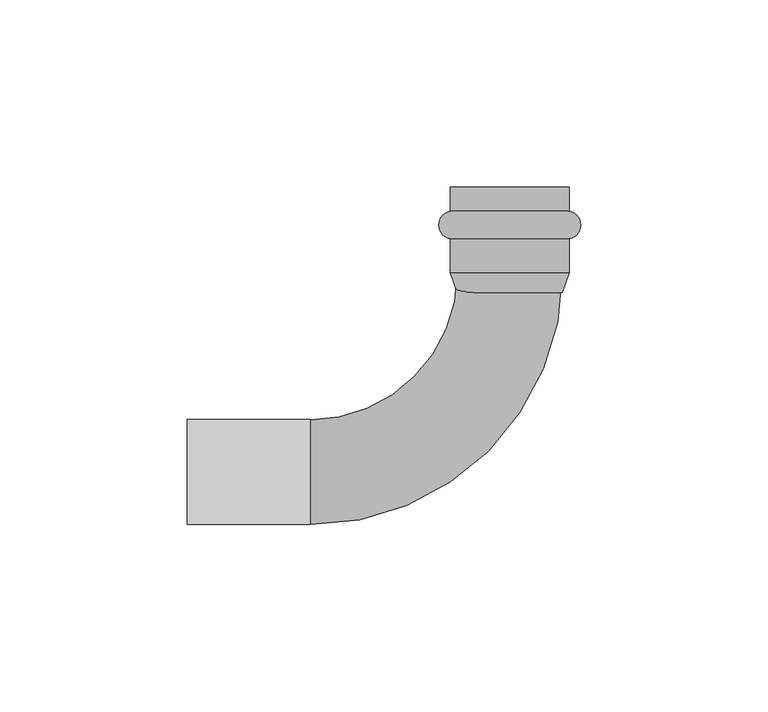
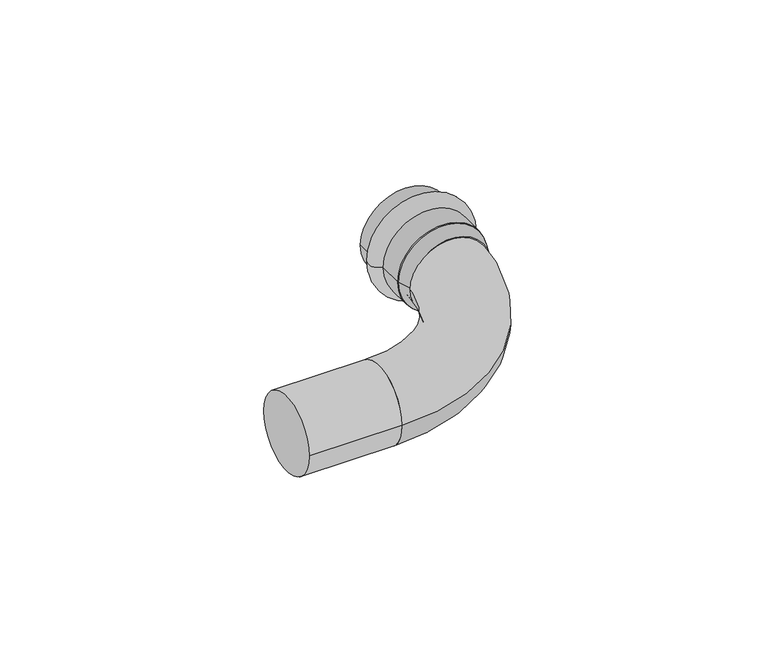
"""IFC4 building model written with IfcOpenShell, lengths in millimetres: pipe fitting geometry, VALTEC_VTi.950.I_Угольник 90° (раструб–труба) нержавеющая сталь : VTi.950.I."""

from ifc_helpers import new_model, si_unit, point, frame, origin, origin_2d, place, context, project, spatial, polyline, circle_curve, ellipse_curve, trimmed, segment, composite_curve, outline, extrude, source, transform, mapped, element, save
from ifc_brep_helpers import plane_surface, cylinder_surface, revolved_surface, advanced_brep


def pipe_fitting_8e122256(model_context):
    return source(origin(), model_context, "Body", "SolidModel", [
        advanced_brep(
        [(-15.9, 69.6242346, 0.0), (15.9, 69.6242346, 0.0), (15.9, 62.2757654, 0.0), (-15.9, 62.2757654, 0.0), (-15.9, 76.0, 0.0), (15.9, 76.0, 0.0), (-14.0, 76.0, 0.0), (14.0, 76.0, 0.0), (-14.0, 53.2, 0.0), (14.0, 53.2, 0.0), (-15.9, 53.2, 0.0), (15.9, 53.2, 0.0)],
        [
            (0, 1, circle_curve(frame((0.0, 69.6242346, 0.0), z_axis=(0.0, -1.0, 0.0), x_axis=(1.0, 0.0, 0.0)), 15.9)),
            (1, 2, circle_curve(frame((15.15, 65.95, 0.0), z_axis=(0.0, 0.0, -1.0), x_axis=(0.0, -1.0, 0.0)), 3.75)),
            (2, 3, circle_curve(frame((0.0, 62.2757654, 0.0), z_axis=(0.0, 1.0, 0.0), x_axis=(1.0, 0.0, 0.0)), 15.9)),
            (3, 0, circle_curve(frame((-15.15, 65.95, 0.0), z_axis=(0.0, 0.0, -1.0), x_axis=(0.0, -1.0, 0.0)), 3.75)),
            (1, 0, circle_curve(frame((0.0, 69.6242346, 0.0), z_axis=(0.0, -1.0, 0.0), x_axis=(1.0, 0.0, 0.0)), 15.9)),
            (3, 2, circle_curve(frame((0.0, 62.2757654, 0.0), z_axis=(0.0, 1.0, 0.0), x_axis=(1.0, 0.0, 0.0)), 15.9)),
            (4, 5, circle_curve(frame((0.0, 76.0, 0.0), z_axis=(0.0, -1.0, 0.0), x_axis=(1.0, 0.0, 0.0)), 15.9)),
            (5, 1),
            (0, 4),
            (5, 4, circle_curve(frame((0.0, 76.0, 0.0), z_axis=(0.0, -1.0, 0.0), x_axis=(1.0, 0.0, 0.0)), 15.9)),
            (6, 7, circle_curve(frame((0.0, 76.0, 0.0), z_axis=(0.0, -1.0, 0.0), x_axis=(1.0, 0.0, 0.0)), 14.0)),
            (7, 5),
            (4, 6),
            (7, 6, circle_curve(frame((0.0, 76.0, 0.0), z_axis=(0.0, -1.0, 0.0), x_axis=(1.0, 0.0, 0.0)), 14.0)),
            (8, 9, circle_curve(frame((0.0, 53.2, 0.0), z_axis=(0.0, -1.0, 0.0), x_axis=(1.0, 0.0, 0.0)), 14.0)),
            (9, 7),
            (6, 8),
            (9, 8, circle_curve(frame((0.0, 53.2, 0.0), z_axis=(0.0, -1.0, 0.0), x_axis=(1.0, 0.0, 0.0)), 14.0)),
            (10, 11, circle_curve(frame((0.0, 53.2, 0.0), z_axis=(0.0, -1.0, 0.0), x_axis=(1.0, 0.0, 0.0)), 15.9)),
            (11, 9),
            (8, 10),
            (11, 10, circle_curve(frame((0.0, 53.2, 0.0), z_axis=(0.0, -1.0, 0.0), x_axis=(1.0, 0.0, 0.0)), 15.9)),
            (2, 11),
            (10, 3),
        ],
        [
            revolved_surface(trimmed(ellipse_curve(frame((15.15, 65.95, 0.0), z_axis=(0.0, 0.0, 1.0), x_axis=(0.0, -1.0, 0.0)), 3.75, 3.75), [point((15.9, 62.2757654, 0.0))], [point((15.9, 69.6242346, 0.0))], True, "CARTESIAN"), (0.0, 79.5364426, 0.0), (0.0, 1.0, 0.0)),
            cylinder_surface(frame((0.0, 79.5364426, 0.0), z_axis=(0.0, 1.0, 0.0), x_axis=(1.0, 0.0, 0.0)), 15.9),
            plane_surface(frame((0.0, 76.0, 0.0), z_axis=(0.0, 1.0, 0.0), x_axis=(1.0, 0.0, 0.0))),
            revolved_surface(polyline([(14.0, 76.0, 0.0), (14.0, 53.2, 0.0)]), (0.0, 79.5364426, 0.0), (0.0, 1.0, 0.0)),
            plane_surface(frame((0.0, 53.2, 0.0), z_axis=(0.0, -1.0, 0.0), x_axis=(1.0, 0.0, 0.0))),
        ],
        [
            (0, [[1, 2, 3, 4]]),
            (0, [[5, -4, 6, -2]]),
            (1, [[7, 8, -1, 9]]),
            (1, [[10, -9, -5, -8]]),
            (2, [[11, 12, -7, 13]]),
            (2, [[14, -13, -10, -12]]),
            (3, [[15, 16, -11, 17]]),
            (3, [[18, -17, -14, -16]]),
            (4, [[19, 20, -15, 21]]),
            (4, [[22, -21, -18, -20]]),
            (1, [[-3, 23, -19, 24]]),
            (1, [[-6, -24, -22, -23]]),
        ],
    ),
        extrude(outline(composite_curve([segment(trimmed(circle_curve(origin_2d(), 14.0), [point((-14.0, 0.0))], [point((14.0, 0.0))], False, "CARTESIAN"), True, "CONTINUOUS"), segment(trimmed(circle_curve(origin_2d(), 14.0), [point((14.0, 0.0))], [point((-14.0, 0.0))], False, "CARTESIAN"), True, "CONTINUOUS")], self_intersect=False)), frame((-86.0, 0.0, 0.0), z_axis=(1.0, 0.0, 0.0), x_axis=(0.0, 1.0, 0.0)), (0.0, 0.0, 1.0), 32.8),
        advanced_brep(
        [(-15.9, 53.2, 0.0), (15.9, 53.2, 0.0), (-14.0, 47.88, 0.0), (14.0, 47.88, 0.0)],
        [
            (0, 1, circle_curve(frame((0.0, 53.2, 0.0), z_axis=(0.0, 1.0, 0.0), x_axis=(-1.0, 0.0, 0.0)), 15.9)),
            (1, 0, circle_curve(frame((0.0, 53.2, 0.0), z_axis=(0.0, 1.0, 0.0), x_axis=(1.0, 0.0, 0.0)), 15.9)),
            (2, 3, circle_curve(frame((0.0, 47.88, 0.0), z_axis=(0.0, -1.0, 0.0), x_axis=(1.0, 0.0, 0.0)), 14.0)),
            (3, 2, circle_curve(frame((0.0, 47.88, 0.0), z_axis=(0.0, -1.0, 0.0), x_axis=(-1.0, 0.0, 0.0)), 14.0)),
            (2, 0),
            (1, 3),
        ],
        [
            plane_surface(frame((0.0, 53.2, 0.0), z_axis=(0.0, 1.0, 0.0), x_axis=(0.0, 0.0, -1.0))),
            plane_surface(frame((0.0, 47.88, 0.0), z_axis=(0.0, -1.0, 0.0), x_axis=(0.0, 0.0, -1.0))),
            revolved_surface(polyline([(-14.0, 47.88, 0.0), (-15.9, 53.2, 0.0)]), (0.0, 8.68, 0.0), (0.0, 1.0, 0.0)),
            revolved_surface(polyline([(14.0, 47.88, 0.0), (15.9, 53.2, 0.0)]), (0.0, 8.68, 0.0), (0.0, 1.0, 0.0)),
        ],
        [
            (0, [[1, 2]]),
            (1, [[3, 4]]),
            (2, [[-3, 5, -2, 6]]),
            (3, [[-4, -6, -1, -5]]),
        ],
    ),
        advanced_brep(
        [(-53.2, -14.0551605, 0.0), (-53.2, 13.9448395, 0.0), (14.0551605, 53.2, 0.0), (-13.9448395, 53.2, 0.0)],
        [
            (0, 1, circle_curve(frame((-53.2, -0.0551605, 0.0), z_axis=(-1.0, 0.0, 0.0), x_axis=(0.0, 1.0, 0.0)), 14.0)),
            (1, 0, circle_curve(frame((-53.2, -0.0551605, 0.0), z_axis=(-1.0, 0.0, 0.0), x_axis=(0.0, 1.0, 0.0)), 14.0)),
            (2, 3, circle_curve(frame((0.0551605, 53.2, 0.0), z_axis=(0.0, 1.0, 0.0), x_axis=(-1.0, 0.0, 0.0)), 14.0)),
            (3, 2, circle_curve(frame((0.0551605, 53.2, 0.0), z_axis=(0.0, 1.0, 0.0), x_axis=(-1.0, 0.0, 0.0)), 14.0)),
            (3, 1, circle_curve(frame((-53.2, 53.2, 0.0), z_axis=(0.0, 0.0, -1.0), x_axis=(0.0, -1.0, 0.0)), 39.2551605)),
            (0, 2, circle_curve(frame((-53.2, 53.2, 0.0), z_axis=(0.0, 0.0, 1.0), x_axis=(0.0, -1.0, 0.0)), 67.2551605)),
        ],
        [
            plane_surface(frame((-53.2, 0.0, 0.0), z_axis=(-1.0, 0.0, 0.0), x_axis=(0.0, 0.0, 1.0))),
            plane_surface(frame((0.0, 53.2, 0.0), z_axis=(0.0, 1.0, 0.0), x_axis=(0.0, 0.0, 1.0))),
            revolved_surface(trimmed(ellipse_curve(frame((-53.2, -0.0551605, 0.0), z_axis=(-1.0, 0.0, 0.0), x_axis=(0.0, 1.0, 0.0)), 14.0, 14.0), [point((-53.2, -14.0551605, 0.0))], [point((-53.2, 13.9448395, 0.0))], True, "CARTESIAN"), (-53.2, 53.2, 0.0), (0.0, 0.0, 1.0)),
            revolved_surface(trimmed(ellipse_curve(frame((-53.2, -0.0551605, 0.0), z_axis=(-1.0, 0.0, 0.0), x_axis=(0.0, 1.0, 0.0)), 14.0, 14.0), [point((-53.2, 13.9448395, 0.0))], [point((-53.2, -14.0551605, 0.0))], True, "CARTESIAN"), (-53.2, 53.2, 0.0), (0.0, 0.0, 1.0)),
        ],
        [
            (0, [[1, 2]]),
            (1, [[3, 4]]),
            (2, [[5, -1, 6, -4]]),
            (3, [[-6, -2, -5, -3]]),
        ],
    ),
    ])


if __name__ == "__main__":
    model = new_model("IFC4")
    model_context = context("Model", 3, world=origin())
    ifc_project = project(units=[si_unit("LENGTHUNIT", "METRE", prefix="MILLI")], contexts=[model_context])
    site = spatial("IfcSite", under=ifc_project)
    building = spatial("IfcBuilding", under=site)
    placement = place(None, origin())
    pipe_fitting_shape = pipe_fitting_8e122256(model_context)
    element("IfcPipeFitting", 1, ObjectType="VALTEC_VTi.950.I_Угольник 90° (раструб–труба) нержавеющая сталь : VTi.950.I", at=placement, inside=building, context=model_context, shape_type="MappedRepresentation", body=[
        mapped(pipe_fitting_shape, transform((0.0, 0.0, 0.0), x_axis=(1.0, 0.0, 0.0), y_axis=(0.0, 1.0, 0.0), z_axis=(0.0, 0.0, 1.0))),
    ])
    save(model, "model.ifc")
